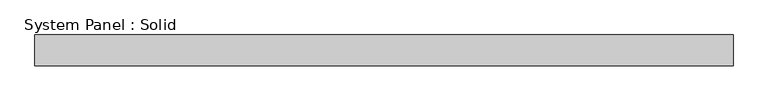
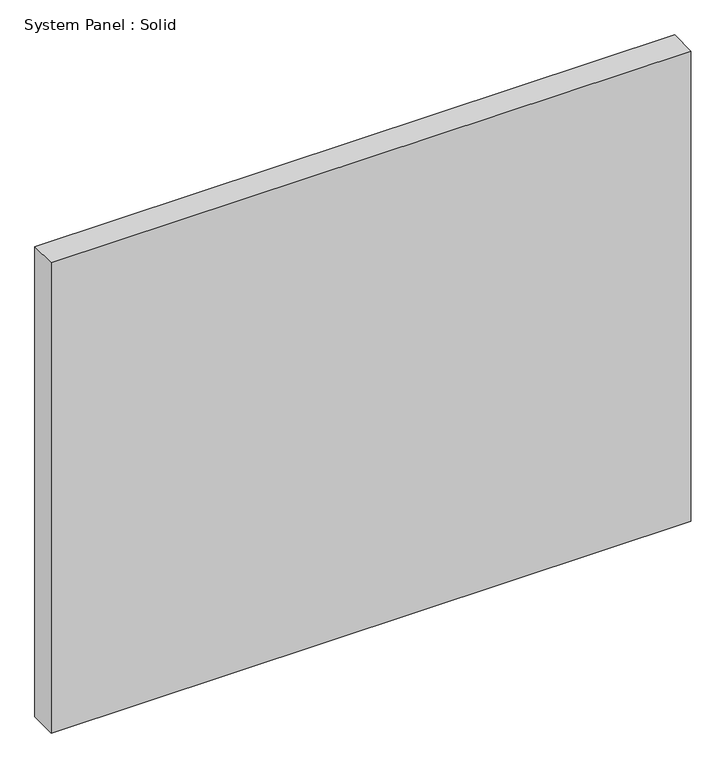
"""IFC4 building model written with IfcOpenShell, lengths in millimetres: plate geometry, System Panel : Solid."""

from ifc_helpers import new_model, si_unit, origin, origin_with_axes, place, context, project, spatial, polyline, outline, extrude, source, transform, mapped, element, save


def system_panel_solid_f9884c24(model_context):
    return source(origin(), model_context, "Body", "SweptSolid", [
        extrude(outline(polyline([(723.1944444, -19.05), (-723.1944444, -19.05), (-723.1944444, 44.45), (723.1944444, 44.45), (723.1944444, -19.05)])), origin_with_axes(), (0.0, 0.0, 1.0), 1123.95),
    ])


if __name__ == "__main__":
    model = new_model("IFC4")
    model_context = context("Model", 3, world=origin())
    ifc_project = project(units=[si_unit("LENGTHUNIT", "METRE", prefix="MILLI")], contexts=[model_context])
    site = spatial("IfcSite", under=ifc_project)
    building = spatial("IfcBuilding", under=site)
    placement = place(None, origin())
    system_panel_solid_shape = system_panel_solid_f9884c24(model_context)
    element("IfcPlate", 1, ObjectType="System Panel : Solid", at=placement, inside=building, context=model_context, shape_type="MappedRepresentation", body=[
        mapped(system_panel_solid_shape, transform((0.0, 0.0, 0.0), x_axis=(1.0, 0.0, 0.0), y_axis=(0.0, 1.0, 0.0), z_axis=(0.0, 0.0, 1.0))),
    ])
    save(model, "model.ifc")
